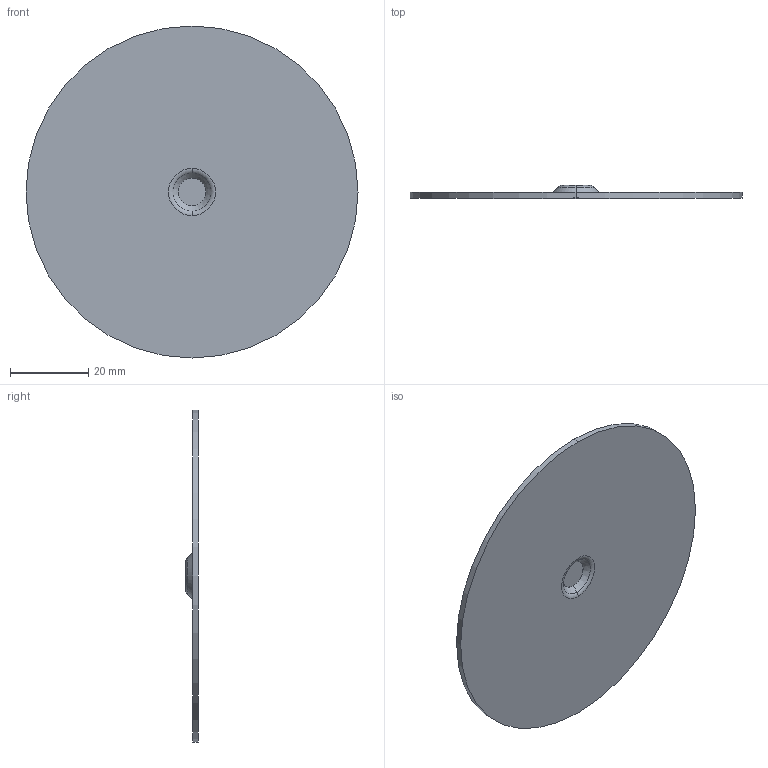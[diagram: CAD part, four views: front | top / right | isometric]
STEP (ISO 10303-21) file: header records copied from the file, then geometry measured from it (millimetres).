
FILE_DESCRIPTION (( 'STEP AP203' ), '1' );
FILE_NAME ('SO 2101121-30.STEP', '2024-09-16T14:50:38', ( '' ), ( '' ), 'SwSTEP 2.0', 'SolidWorks 2024', '' );
FILE_SCHEMA (( 'CONFIG_CONTROL_DESIGN' ));
Length unit declared in the file: inch
Products named in the file (1): SO 2101121-30
Bounding box: 84.7 x 3.28 x 84.7 mm (x, y, z)
Volume: 8473.1 mm3; surface area: 11706.7 mm2
Topology: 1 solids, 1 shells, 18 faces, 34 edges, 20 vertices
Faces by surface type: torus 8, cone 4, plane 4, cylinder 2
Entity records: 541 total; most frequent: DIRECTION 100, CARTESIAN_POINT 73, ORIENTED_EDGE 68, AXIS2_PLACEMENT_3D 47, EDGE_CURVE 34, CIRCLE 28, VERTEX_POINT 20, EDGE_LOOP 20
